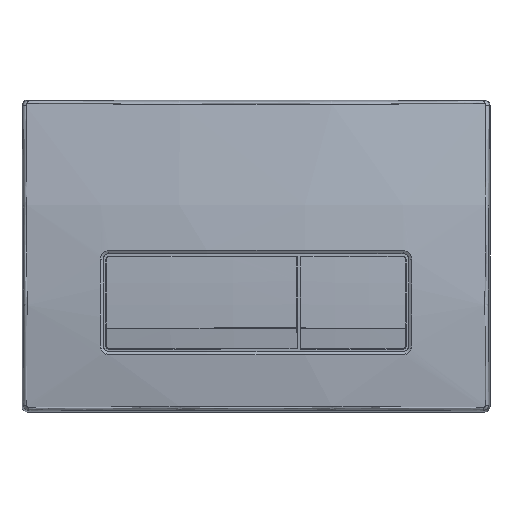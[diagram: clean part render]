
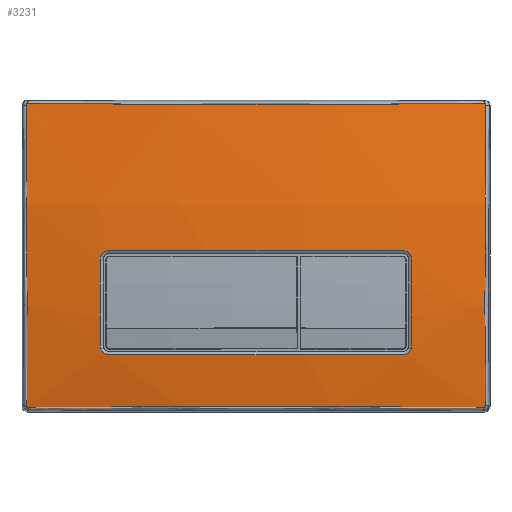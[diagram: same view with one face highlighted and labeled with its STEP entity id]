
A CAD part, front view. The second image highlights one B-rep face of the part: STEP entity #3231.
In plain terms, the highlighted toroidal (fillet/blend) face has major radius 533.941 mm and minor radius 478.409 mm.
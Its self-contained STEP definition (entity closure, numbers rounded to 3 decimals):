
#25=FACE_BOUND('',#510,.T.);
#26=TOROIDAL_SURFACE('',#3470,533.941,478.409);
#95=CIRCLE('',#3455,0.982);
#97=CIRCLE('',#3457,1000.681);
#99=CIRCLE('',#3459,0.982);
#101=CIRCLE('',#3461,471.487);
#103=CIRCLE('',#3463,0.975);
#105=CIRCLE('',#3465,989.257);
#107=CIRCLE('',#3467,0.974);
#109=CIRCLE('',#3469,471.494);
#110=CIRCLE('',#3471,4.565);
#111=CIRCLE('',#3472,1012.956);
#112=CIRCLE('',#3473,4.563);
#113=CIRCLE('',#3474,478.213);
#114=CIRCLE('',#3475,4.561);
#115=CIRCLE('',#3476,1013.436);
#116=CIRCLE('',#3477,4.562);
#117=CIRCLE('',#3478,478.213);
#312=FACE_OUTER_BOUND('',#509,.T.);
#509=EDGE_LOOP('',(#2073,#2074,#2075,#2076,#2077,#2078,#2079,#2080));
#510=EDGE_LOOP('',(#2081,#2082,#2083,#2084,#2085,#2086,#2087,#2088));
#1267=VERTEX_POINT('',#4968);
#1268=VERTEX_POINT('',#4970);
#1269=VERTEX_POINT('',#5116);
#1270=VERTEX_POINT('',#5262);
#1271=VERTEX_POINT('',#5408);
#1272=VERTEX_POINT('',#5543);
#1273=VERTEX_POINT('',#5689);
#1274=VERTEX_POINT('',#5835);
#1275=VERTEX_POINT('',#5983);
#1276=VERTEX_POINT('',#5984);
#1277=VERTEX_POINT('',#5986);
#1278=VERTEX_POINT('',#5988);
#1279=VERTEX_POINT('',#5990);
#1280=VERTEX_POINT('',#5992);
#1281=VERTEX_POINT('',#5994);
#1282=VERTEX_POINT('',#5996);
#1556=EDGE_CURVE('',#1267,#1268,#95,.T.);
#1558=EDGE_CURVE('',#1268,#1269,#97,.T.);
#1560=EDGE_CURVE('',#1269,#1270,#99,.T.);
#1562=EDGE_CURVE('',#1270,#1271,#101,.T.);
#1564=EDGE_CURVE('',#1271,#1272,#103,.T.);
#1566=EDGE_CURVE('',#1272,#1273,#105,.T.);
#1568=EDGE_CURVE('',#1273,#1274,#107,.T.);
#1570=EDGE_CURVE('',#1274,#1267,#109,.T.);
#1571=EDGE_CURVE('',#1275,#1276,#110,.T.);
#1572=EDGE_CURVE('',#1276,#1277,#111,.T.);
#1573=EDGE_CURVE('',#1277,#1278,#112,.T.);
#1574=EDGE_CURVE('',#1278,#1279,#113,.T.);
#1575=EDGE_CURVE('',#1279,#1280,#114,.T.);
#1576=EDGE_CURVE('',#1280,#1281,#115,.T.);
#1577=EDGE_CURVE('',#1281,#1282,#116,.T.);
#1578=EDGE_CURVE('',#1282,#1275,#117,.T.);
#2073=ORIENTED_EDGE('',*,*,#1570,.F.);
#2074=ORIENTED_EDGE('',*,*,#1568,.F.);
#2075=ORIENTED_EDGE('',*,*,#1566,.F.);
#2076=ORIENTED_EDGE('',*,*,#1564,.F.);
#2077=ORIENTED_EDGE('',*,*,#1562,.F.);
#2078=ORIENTED_EDGE('',*,*,#1560,.F.);
#2079=ORIENTED_EDGE('',*,*,#1558,.F.);
#2080=ORIENTED_EDGE('',*,*,#1556,.F.);
#2081=ORIENTED_EDGE('',*,*,#1571,.T.);
#2082=ORIENTED_EDGE('',*,*,#1572,.T.);
#2083=ORIENTED_EDGE('',*,*,#1573,.T.);
#2084=ORIENTED_EDGE('',*,*,#1574,.T.);
#2085=ORIENTED_EDGE('',*,*,#1575,.T.);
#2086=ORIENTED_EDGE('',*,*,#1576,.T.);
#2087=ORIENTED_EDGE('',*,*,#1577,.T.);
#2088=ORIENTED_EDGE('',*,*,#1578,.T.);
#3231=ADVANCED_FACE('',(#312,#25),#26,.T.);
#3455=AXIS2_PLACEMENT_3D('',#4971,#3856,#3857);
#3457=AXIS2_PLACEMENT_3D('',#5117,#3860,#3861);
#3459=AXIS2_PLACEMENT_3D('',#5263,#3864,#3865);
#3461=AXIS2_PLACEMENT_3D('',#5409,#3868,#3869);
#3463=AXIS2_PLACEMENT_3D('',#5544,#3872,#3873);
#3465=AXIS2_PLACEMENT_3D('',#5690,#3876,#3877);
#3467=AXIS2_PLACEMENT_3D('',#5836,#3880,#3881);
#3469=AXIS2_PLACEMENT_3D('',#5981,#3884,#3885);
#3470=AXIS2_PLACEMENT_3D('',#5982,#3886,#3887);
#3471=AXIS2_PLACEMENT_3D('',#5985,#3888,#3889);
#3472=AXIS2_PLACEMENT_3D('',#5987,#3890,#3891);
#3473=AXIS2_PLACEMENT_3D('',#5989,#3892,#3893);
#3474=AXIS2_PLACEMENT_3D('',#5991,#3894,#3895);
#3475=AXIS2_PLACEMENT_3D('',#5993,#3896,#3897);
#3476=AXIS2_PLACEMENT_3D('',#5995,#3898,#3899);
#3477=AXIS2_PLACEMENT_3D('',#5997,#3900,#3901);
#3478=AXIS2_PLACEMENT_3D('',#5998,#3902,#3903);
#3856=DIRECTION('center_axis',(-0.117,0.985,0.123));
#3857=DIRECTION('ref_axis',(0.993,0.115,0.029));
#3860=DIRECTION('center_axis',(0.,-0.052,
-0.999));
#3861=DIRECTION('ref_axis',(0.119,-0.991,0.052));
#3864=DIRECTION('center_axis',(0.117,0.985,0.123));
#3865=DIRECTION('ref_axis',(0.026,0.12,-0.992));
#3868=DIRECTION('center_axis',(-0.999,-0.052,0.));
#3869=DIRECTION('ref_axis',(0.052,-0.991,-0.124));
#3872=DIRECTION('center_axis',(0.117,0.971,-0.207));
#3873=DIRECTION('ref_axis',(-0.993,0.108,-0.055));
#3876=DIRECTION('center_axis',(0.,-0.052,
0.999));
#3877=DIRECTION('ref_axis',(-0.121,-0.991,-0.052));
#3880=DIRECTION('center_axis',(-0.117,0.971,-0.208));
#3881=DIRECTION('ref_axis',(-0.03,0.205,0.978));
#3884=DIRECTION('center_axis',(0.999,-0.052,0.));
#3885=DIRECTION('ref_axis',(-0.051,-0.976,0.21));
#3886=DIRECTION('center_axis',(0.,0.,
1.));
#3887=DIRECTION('ref_axis',(0.,-1.,0.));
#3888=DIRECTION('center_axis',(0.075,0.996,-0.039));
#3889=DIRECTION('ref_axis',(-0.997,0.075,-0.003));
#3890=DIRECTION('center_axis',(0.,0.052,
0.999));
#3891=DIRECTION('ref_axis',(-0.076,-0.996,0.052));
#3892=DIRECTION('center_axis',(-0.075,0.996,-0.04));
#3893=DIRECTION('ref_axis',(0.006,0.04,0.999));
#3894=DIRECTION('center_axis',(0.999,0.052,0.));
#3895=DIRECTION('ref_axis',(0.052,-0.998,0.038));
#3896=DIRECTION('center_axis',(-0.075,0.995,0.058));
#3897=DIRECTION('ref_axis',(0.997,0.075,0.));
#3898=DIRECTION('center_axis',(0.,0.052,-0.999));
#3899=DIRECTION('ref_axis',(0.076,-0.996,-0.052));
#3900=DIRECTION('center_axis',(0.075,0.995,0.058));
#3901=DIRECTION('ref_axis',(-0.005,0.059,-0.998));
#3902=DIRECTION('center_axis',(-0.999,0.052,0.));
#3903=DIRECTION('ref_axis',(-0.052,-0.997,-0.057));
#4968=CARTESIAN_POINT('',(120.542,-15.175,-78.551));
#4970=CARTESIAN_POINT('',(119.542,-15.17,-79.554));
#4971=CARTESIAN_POINT('Origin',(119.567,-15.288,-78.58));
#5116=CARTESIAN_POINT('',(-119.542,-15.17,-79.554));
#5117=CARTESIAN_POINT('Origin',(0.,976.978,-131.666));
#5262=CARTESIAN_POINT('',(-120.542,-15.175,-78.551));
#5263=CARTESIAN_POINT('Origin',(-119.567,-15.288,-78.58));
#5408=CARTESIAN_POINT('',(-120.9,-8.307,79.079));
#5409=CARTESIAN_POINT('Origin',(-144.856,452.03,-19.998));
#5543=CARTESIAN_POINT('',(-119.904,-8.212,80.087));
#5544=CARTESIAN_POINT('Origin',(-119.932,-8.412,79.133));
#5689=CARTESIAN_POINT('',(119.904,-8.212,80.087));
#5690=CARTESIAN_POINT('Origin',(0.,972.4,131.592));
#5835=CARTESIAN_POINT('',(120.9,-8.307,79.079));
#5836=CARTESIAN_POINT('Origin',(119.933,-8.412,79.134));
#5981=CARTESIAN_POINT('Origin',(144.857,452.036,-19.998));
#5982=CARTESIAN_POINT('Origin',(0.,986.35,
-20.));
#5983=CARTESIAN_POINT('',(-81.869,-22.333,-1.7));
#5984=CARTESIAN_POINT('',(-77.347,-22.492,2.877));
#5985=CARTESIAN_POINT('Origin',(-77.317,-22.675,-1.684));
#5986=CARTESIAN_POINT('',(77.347,-22.492,2.877));
#5987=CARTESIAN_POINT('Origin',(0.,986.123,-49.984));
#5988=CARTESIAN_POINT('',(81.869,-22.333,-1.699));
#5989=CARTESIAN_POINT('Origin',(77.319,-22.675,-1.682));
#5990=CARTESIAN_POINT('',(81.846,-21.904,-47.296));
#5991=CARTESIAN_POINT('Origin',(56.859,454.875,-20.));
#5992=CARTESIAN_POINT('',(77.319,-21.978,-51.85));
#5993=CARTESIAN_POINT('Origin',(77.298,-22.246,-47.297));
#5994=CARTESIAN_POINT('',(-77.319,-21.979,-51.85));
#5995=CARTESIAN_POINT('Origin',(0.,987.118,1.036));
#5996=CARTESIAN_POINT('',(-81.846,-21.904,-47.296));
#5997=CARTESIAN_POINT('Origin',(-77.297,-22.247,-47.296));
#5998=CARTESIAN_POINT('Origin',(-56.864,454.875,-20.));
